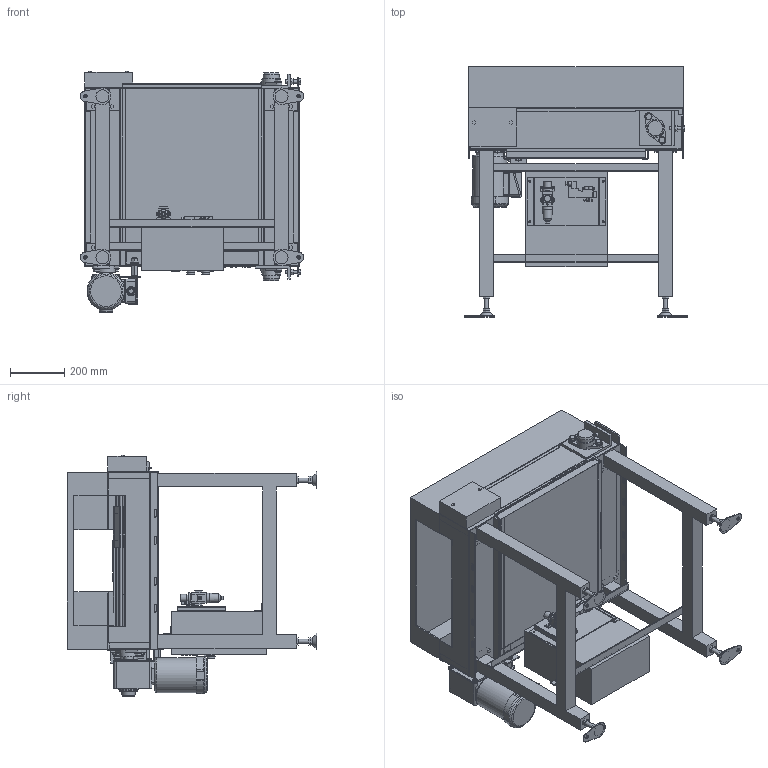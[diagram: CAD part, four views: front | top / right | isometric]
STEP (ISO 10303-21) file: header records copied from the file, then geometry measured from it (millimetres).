
FILE_DESCRIPTION( (''), '2;1');
FILE_NAME ('WEB-SLS-H-340-2-150-250-R-IVH-7.5.stp','2025-11-20T12:16:59',(''),(''),'spGate 20.6.2 (****-****-****-****)','','');
FILE_SCHEMA (('AUTOMOTIVE_DESIGN'));
Length unit declared in the file: millimetre
Products named in the file (86): WEB-SLS-H-340-2-150-250-R-IVH-7.5; TEMP_X_T-prt0; TEMP_X_T-prt1; TEMP_X_T-prt2; TEMP_X_T-prt3; TEMP_X_T-prt4; TEMP_X_T-prt5; TEMP_X_T-prt6; TEMP_X_T-prt7; TEMP_X_T-prt8; TEMP_X_T-prt9; TEMP_X_T-prt10; TEMP_X_T-prt11; TEMP_X_T-prt12; TEMP_X_T-prt13; TEMP_X_T-prt14; TEMP_X_T-prt15; TEMP_X_T-prt16; TEMP_X_T-prt17; TEMP_X_T-prt18; TEMP_X_T-prt19; TEMP_X_T-prt20; TEMP_X_T-prt21; TEMP_X_T-prt22; TEMP_X_T-prt23; TEMP_X_T-prt24; TEMP_X_T-prt25; TEMP_X_T-prt26; TEMP_X_T-prt27; TEMP_X_T-prt28; TEMP_X_T-prt29; TEMP_X_T-prt30; TEMP_X_T-prt31; TEMP_X_T-prt32; TEMP_X_T-prt33; TEMP_X_T-prt34; TEMP_X_T-prt35; TEMP_X_T-prt36; TEMP_X_T-prt37; TEMP_X_T-prt38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
Assembly tree (85 placements, depth 2):
  WEB-SLS-H-340-2-150-250-R-IVH-7.5
    TEMP_X_T-prt0
    TEMP_X_T-prt1
    TEMP_X_T-prt2
    TEMP_X_T-prt3
    TEMP_X_T-prt4
    TEMP_X_T-prt5
    TEMP_X_T-prt6
    TEMP_X_T-prt7
    TEMP_X_T-prt8
    TEMP_X_T-prt9
    TEMP_X_T-prt10
    TEMP_X_T-prt11
    TEMP_X_T-prt12
    TEMP_X_T-prt13
    TEMP_X_T-prt14
    TEMP_X_T-prt15
    TEMP_X_T-prt16
    TEMP_X_T-prt17
    TEMP_X_T-prt18
    TEMP_X_T-prt19
    TEMP_X_T-prt20
    TEMP_X_T-prt21
    TEMP_X_T-prt22
    TEMP_X_T-prt23
    TEMP_X_T-prt24
    TEMP_X_T-prt25
    TEMP_X_T-prt26
    TEMP_X_T-prt27
    TEMP_X_T-prt28
    TEMP_X_T-prt29
    TEMP_X_T-prt30
    TEMP_X_T-prt31
    TEMP_X_T-prt32
    TEMP_X_T-prt33
    TEMP_X_T-prt34
    TEMP_X_T-prt35
    TEMP_X_T-prt36
    TEMP_X_T-prt37
    TEMP_X_T-prt38
    TEMP_X_T-prt39
    TEMP_X_T-prt40
    TEMP_X_T-prt41
    TEMP_X_T-prt42
    TEMP_X_T-prt43
    TEMP_X_T-prt44
    TEMP_X_T-prt45
    TEMP_X_T-prt46
    TEMP_X_T-prt47
    TEMP_X_T-prt48
    TEMP_X_T-prt49
    TEMP_X_T-prt50
    TEMP_X_T-prt51
    TEMP_X_T-prt52
    TEMP_X_T-prt53
    TEMP_X_T-prt54
    TEMP_X_T-prt55
    TEMP_X_T-prt56
    TEMP_X_T-prt57
    TEMP_X_T-prt58
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Bounding box: 824 x 920.6 x 889.5 mm (x, y, z)
Volume: 56646347.1 mm3; surface area: 8560019.7 mm2
Topology: 85 solids, 85 shells, 2455 faces, 6480 edges, 4212 vertices
Faces by surface type: plane 1797, cylinder 486, bspline 168, sphere 4
Full cylindrical faces by diameter (mm): 2.459 x2, 3.2 x4, 4.386 x2, 6 x3, 6.5 x2, 6.8 x3, 7 x4, 7.9 x4, 8 x6, 8.376 x4, 8.5 x6, 9 x1, 9.7 x3, 9.9 x1, 10 x1, 10.5 x4, 11 x5, 11.8 x4, 12 x2, 12.3 x1, 13 x8, 13.8 x1, 14 x10, 15 x1, 15.4 x1, 16 x16, 18 x1, 19 x1, 20 x1, 21 x6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
Entity records: 132791 total; most frequent: CARTESIAN_POINT 17884, ORIENTED_EDGE 12948, DIRECTION 12342, COLOUR_RGB 9014, PRESENTATION_STYLE_ASSIGNMENT 9014, STYLED_ITEM 9014, EDGE_CURVE 6474, DRAUGHTING_PRE_DEFINED_CURVE_FONT 6474
